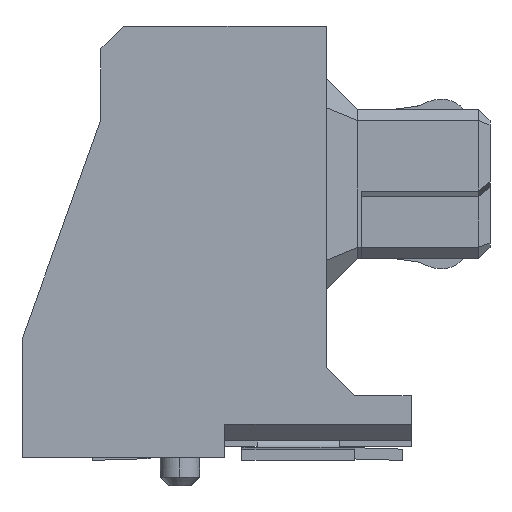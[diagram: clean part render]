
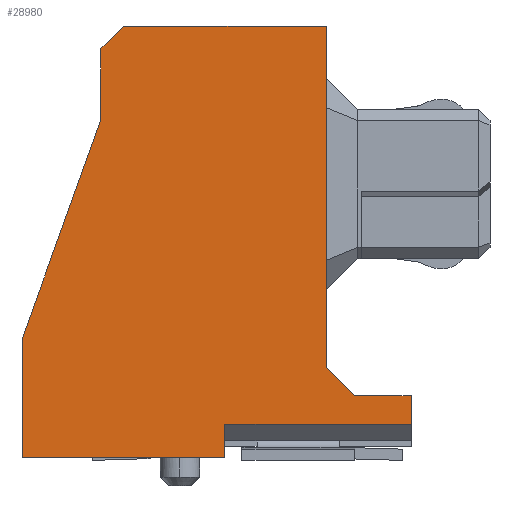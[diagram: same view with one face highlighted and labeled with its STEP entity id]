
A CAD part, left-side view. The second image highlights one B-rep face of the part: STEP entity #28980.
In plain terms, the highlighted planar face has unit normal (-1, 0, 0) as drawn and (0, 0, 1) by its records, which use the part's own axes.
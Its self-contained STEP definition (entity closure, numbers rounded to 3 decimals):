
#12680=CARTESIAN_POINT('',(24.287,-57.914,28.5));
#12690=VERTEX_POINT('',#12680);
#12720=CARTESIAN_POINT('',(45.103,0.,28.5));
#12730=DIRECTION('',(0.338,0.941,0.));
#12740=VECTOR('',#12730,1.);
#12750=LINE('',#12720,#12740);
#12760=CARTESIAN_POINT('',(22.887,-61.809,28.5));
#12770=VERTEX_POINT('',#12760);
#12780=EDGE_CURVE('',#12770,#12690,#12750,.T.);
#13880=CARTESIAN_POINT('',(29.787,-62.809,28.5));
#13890=VERTEX_POINT('',#13880);
#13920=CARTESIAN_POINT('',(0.,-62.809,28.5));
#13930=DIRECTION('',(1.,0.,0.));
#13940=VECTOR('',#13930,1.);
#13950=LINE('',#13920,#13940);
#13960=CARTESIAN_POINT('',(28.787,-62.809,28.5));
#13970=VERTEX_POINT('',#13960);
#13980=EDGE_CURVE('',#13970,#13890,#13950,.T.);
#21940=CARTESIAN_POINT('',(24.287,-56.659,28.5));
#21950=VERTEX_POINT('',#21940);
#21980=CARTESIAN_POINT('',(24.287,0.,28.5));
#21990=DIRECTION('',(0.,1.,0.));
#22000=VECTOR('',#21990,1.);
#22010=LINE('',#21980,#22000);
#22020=EDGE_CURVE('',#12690,#21950,#22010,.T.);
#23720=CARTESIAN_POINT('',(26.487,0.,28.5));
#23730=DIRECTION('',(0.,-1.,0.));
#23740=VECTOR('',#23730,1.);
#23750=LINE('',#23720,#23740);
#23760=CARTESIAN_POINT('',(26.487,-63.314,28.5));
#23770=VERTEX_POINT('',#23760);
#23780=CARTESIAN_POINT('',(26.487,-63.909,28.5));
#23790=VERTEX_POINT('',#23780);
#23800=EDGE_CURVE('',#23770,#23790,#23750,.T.);
#28290=CARTESIAN_POINT('',(0.,0.,28.5));
#28300=DIRECTION('',(0.,0.,1.));
#28310=DIRECTION('',(1.,0.,0.));
#28320=AXIS2_PLACEMENT_3D('',#28290,#28300,#28310);
#28330=PLANE('',#28320);
#28340=CARTESIAN_POINT('',(22.887,0.,28.5));
#28350=DIRECTION('',(0.,1.,0.));
#28360=VECTOR('',#28350,1.);
#28370=LINE('',#28340,#28360);
#28380=CARTESIAN_POINT('',(22.887,-63.909,28.5));
#28390=VERTEX_POINT('',#28380);
#28400=EDGE_CURVE('',#28390,#12770,#28370,.T.);
#28410=ORIENTED_EDGE('',*,*,#28400,.F.);
#28420=ORIENTED_EDGE('',*,*,#12780,.F.);
#28430=ORIENTED_EDGE('',*,*,#22020,.F.);
#28440=CARTESIAN_POINT('',(80.946,0.,28.5));
#28450=DIRECTION('',(0.707,0.707,0.));
#28460=VECTOR('',#28450,1.);
#28470=LINE('',#28440,#28460);
#28480=CARTESIAN_POINT('',(24.687,-56.259,28.5));
#28490=VERTEX_POINT('',#28480);
#28500=EDGE_CURVE('',#21950,#28490,#28470,.T.);
#28510=ORIENTED_EDGE('',*,*,#28500,.F.);
#28520=CARTESIAN_POINT('',(0.,-56.259,28.5));
#28530=DIRECTION('',(1.,0.,0.));
#28540=VECTOR('',#28530,1.);
#28550=LINE('',#28520,#28540);
#28560=CARTESIAN_POINT('',(28.287,-56.259,28.5));
#28570=VERTEX_POINT('',#28560);
#28580=EDGE_CURVE('',#28490,#28570,#28550,.T.);
#28590=ORIENTED_EDGE('',*,*,#28580,.F.);
#28600=CARTESIAN_POINT('',(28.287,0.,28.5));
#28610=DIRECTION('',(0.,1.,0.));
#28620=VECTOR('',#28610,1.);
#28630=LINE('',#28600,#28620);
#28640=CARTESIAN_POINT('',(28.287,-62.309,28.5));
#28650=VERTEX_POINT('',#28640);
#28660=EDGE_CURVE('',#28650,#28570,#28630,.T.);
#28670=ORIENTED_EDGE('',*,*,#28660,.T.);
#28680=CARTESIAN_POINT('',(0.,-34.023,28.5));
#28690=DIRECTION('',(0.707,-0.707,0.));
#28700=VECTOR('',#28690,1.);
#28710=LINE('',#28680,#28700);
#28720=EDGE_CURVE('',#28650,#13970,#28710,.T.);
#28730=ORIENTED_EDGE('',*,*,#28720,.F.);
#28740=ORIENTED_EDGE('',*,*,#13980,.F.);
#28750=CARTESIAN_POINT('',(29.787,0.,28.5));
#28760=DIRECTION('',(0.,-1.,0.));
#28770=VECTOR('',#28760,1.);
#28780=LINE('',#28750,#28770);
#28790=CARTESIAN_POINT('',(29.787,-63.314,28.5));
#28800=VERTEX_POINT('',#28790);
#28810=EDGE_CURVE('',#13890,#28800,#28780,.T.);
#28820=ORIENTED_EDGE('',*,*,#28810,.F.);
#28830=CARTESIAN_POINT('',(0.,-63.314,28.5));
#28840=DIRECTION('',(1.,0.,0.));
#28850=VECTOR('',#28840,1.);
#28860=LINE('',#28830,#28850);
#28870=EDGE_CURVE('',#23770,#28800,#28860,.T.);
#28880=ORIENTED_EDGE('',*,*,#28870,.T.);
#28890=ORIENTED_EDGE('',*,*,#23800,.F.);
#28900=CARTESIAN_POINT('',(0.,-63.909,28.5));
#28910=DIRECTION('',(1.,0.,0.));
#28920=VECTOR('',#28910,1.);
#28930=LINE('',#28900,#28920);
#28940=EDGE_CURVE('',#28390,#23790,#28930,.T.);
#28950=ORIENTED_EDGE('',*,*,#28940,.T.);
#28960=EDGE_LOOP('',(#28950,#28890,#28880,#28820,#28740,#28730,#28670,
#28590,#28510,#28430,#28420,#28410));
#28970=FACE_OUTER_BOUND('',#28960,.T.);
#28980=ADVANCED_FACE('',(#28970),#28330,.T.);
